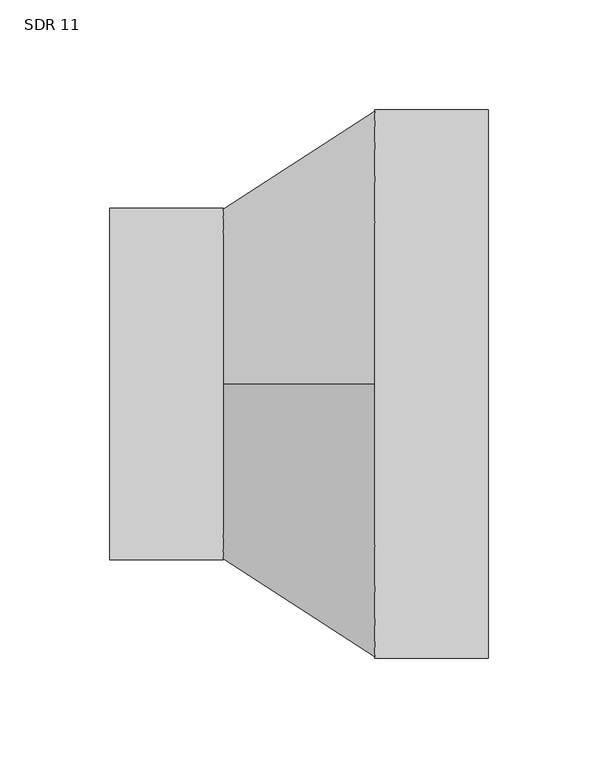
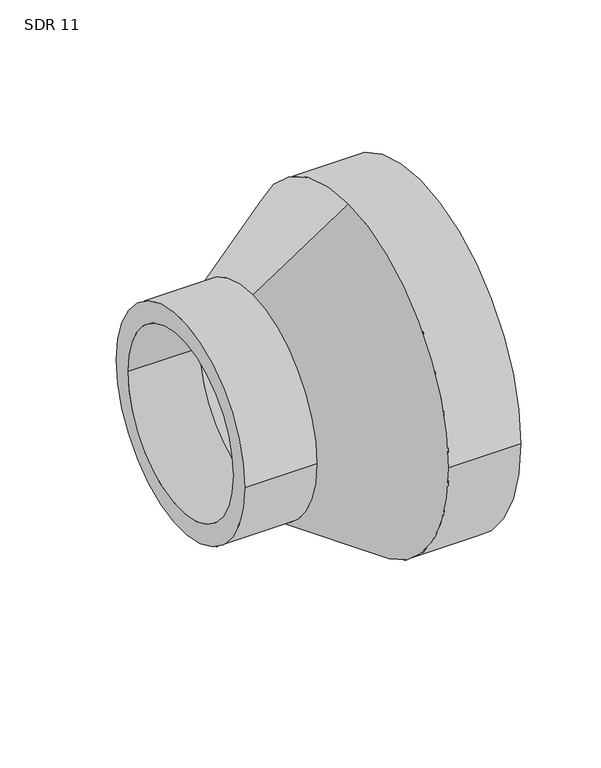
"""IFC4 building model written with IfcOpenShell, lengths in millimetres: pipe fitting geometry, Aquatherm - Reducing Coupling Combined - METRIC : SDR 11."""

import ifcopenshell
import ifcopenshell.guid

model = None  # the IFC model being written
_history = None  # IfcOwnerHistory: only IFC2X3 demands one
_inside = {}  # id of a spatial element -> (the spatial element, [elements in it])
_under = {}  # id of a project, library or spatial element -> (it, [spatial elements below it])
_declared = {}  # id of a project -> (the project, [libraries it declares])
_typed = {}  # id of a type object -> (the type object, [elements of that type])
_made_of = {}  # id of a material, layer set ... -> (it, [elements and type objects made of it])


def new_model(schema):
    """Start an empty IFC model of exactly this schema.

    Asked for "IFC4X3", IfcOpenShell would pick the latest addendum, in which some entities
    have other attributes; the version numbers below select the first issue.
    IFC2X3 requires an IfcOwnerHistory on every rooted entity: one is made here for all.
    """
    global model, _history
    if schema == "IFC4X3":
        model = ifcopenshell.file(schema_version=(4, 3, 0, 0))
    else:
        model = ifcopenshell.file(schema=schema)
    _inside.clear()
    _under.clear()
    _declared.clear()
    _typed.clear()
    _made_of.clear()
    _history = None
    if model.schema == "IFC2X3":
        org = make("IfcOrganization", Name="unknown")
        user = make(
            "IfcPersonAndOrganization",
            ThePerson=make("IfcPerson", FamilyName="unknown"),
            TheOrganization=org,
        )
        app = make(
            "IfcApplication",
            ApplicationDeveloper=org,
            Version="unknown",
            ApplicationFullName="unknown",
            ApplicationIdentifier="unknown",
        )
        _history = make(
            "IfcOwnerHistory",
            OwningUser=user,
            OwningApplication=app,
            ChangeAction="ADDED",
            CreationDate=0,
        )
    return model


def make(cls, **values):
    """One entity of the class cls with the attributes given. An attribute that is None is left unset."""
    return model.create_entity(
        cls, **{name: value for name, value in values.items() if value is not None}
    )


def rooted(cls, **values):
    """An entity with a GlobalId (a new one), such as an element, a storey or a relation."""
    return make(cls, GlobalId=ifcopenshell.guid.new(), OwnerHistory=_history, **values)


def si_unit(unit_type, name, prefix=None):
    """IfcSIUnit, for example si_unit("LENGTHUNIT", "METRE", prefix="MILLI")."""
    return make("IfcSIUnit", UnitType=unit_type, Prefix=prefix, Name=name)


def assignment(units):
    """IfcUnitAssignment: the units of a project."""
    return None if units is None else make("IfcUnitAssignment", Units=units)


def point(xyz):
    """IfcCartesianPoint."""
    return None if xyz is None else make("IfcCartesianPoint", Coordinates=xyz)


def direction(xyz):
    """IfcDirection."""
    return None if xyz is None else make("IfcDirection", DirectionRatios=xyz)


def frame(location, z_axis=None, x_axis=None):
    """IfcAxis2Placement3D, a coordinate frame: its origin and axes. An axis left out is left unset."""
    return make(
        "IfcAxis2Placement3D",
        Location=point(location),
        Axis=direction(z_axis),
        RefDirection=direction(x_axis),
    )


def origin():
    """The frame at (0, 0, 0) with its axes left unset."""
    return frame((0.0, 0.0, 0.0))


def place(relative_to, where):
    """IfcLocalPlacement: puts the frame where relative to a parent placement (None: the world)."""
    return make(
        "IfcLocalPlacement", PlacementRelTo=relative_to, RelativePlacement=where
    )


def context(
    kind, dimensions, precision=None, world=None, true_north=None, identifier=None
):
    """IfcGeometricRepresentationContext, for example the 3D "Model" context."""
    return make(
        "IfcGeometricRepresentationContext",
        ContextIdentifier=identifier,
        ContextType=kind,
        CoordinateSpaceDimension=dimensions,
        Precision=precision,
        WorldCoordinateSystem=world,
        TrueNorth=true_north,
    )


def project(units=None, contexts=None):
    """IfcProject with its units and contexts."""
    return rooted(
        "IfcProject",
        Name="project",
        RepresentationContexts=contexts,
        UnitsInContext=assignment(units),
    )


def spatial(cls, under=None, at=None, **own):
    """A site, building, storey or space (cls), placed at a placement, below another one or the project."""
    s = rooted(cls, ObjectPlacement=at, **own)
    if under is not None:
        _under.setdefault(under.id(), (under, []))[1].append(s)
    return s


def polyline(points):
    """IfcPolyline through the points."""
    return make("IfcPolyline", Points=[point(p) for p in points])


def circle_curve(where, radius):
    """IfcCircle in the frame where."""
    return make("IfcCircle", Position=where, Radius=radius)


def shape(context_of_items, identifier, shape_type, items):
    """IfcShapeRepresentation: the items that make up one representation, for example the "Body"."""
    return make(
        "IfcShapeRepresentation",
        ContextOfItems=context_of_items,
        RepresentationIdentifier=identifier,
        RepresentationType=shape_type,
        Items=items,
    )


def source(mapping_origin, context_of_items, identifier, shape_type, items):
    """IfcRepresentationMap: a shape defined once, which mapped items show again and again."""
    return make(
        "IfcRepresentationMap",
        MappingOrigin=mapping_origin,
        MappedRepresentation=shape(context_of_items, identifier, shape_type, items),
    )


def transform(
    local_origin,
    x_axis=None,
    y_axis=None,
    z_axis=None,
    scale=None,
    scale2=None,
    scale3=None,
    uniform=True,
):
    """IfcCartesianTransformationOperator3D, or its non-uniform kind. x_axis, y_axis, z_axis: its Axis1, 2, 3."""
    if uniform:
        return make(
            "IfcCartesianTransformationOperator3D",
            Axis1=direction(x_axis),
            Axis2=direction(y_axis),
            LocalOrigin=point(local_origin),
            Scale=scale,
            Axis3=direction(z_axis),
        )
    return make(
        "IfcCartesianTransformationOperator3DnonUniform",
        Axis1=direction(x_axis),
        Axis2=direction(y_axis),
        LocalOrigin=point(local_origin),
        Scale=scale,
        Axis3=direction(z_axis),
        Scale2=scale2,
        Scale3=scale3,
    )


def mapped(mapping_source, mapping_target):
    """IfcMappedItem: shows the shape of a source again, moved by a transform."""
    return make(
        "IfcMappedItem", MappingSource=mapping_source, MappingTarget=mapping_target
    )


def made_of(thing, what):
    """Note that an element or type object is made of a material, layer set ...; save() writes the relation."""
    if what is not None:
        _made_of.setdefault(what.id(), (what, []))[1].append(thing)
    return thing


def element(
    cls,
    number,
    at=None,
    inside=None,
    cuts=None,
    type_object=None,
    material=None,
    context=None,
    identifier="Body",
    shape_type=None,
    held_by="IfcProductDefinitionShape",
    body=None,
    shapes=None,
    **own,
):
    """One element of the class cls, such as IfcWall. Its Tag is "e" and its number.

    at: its placement. inside: the storey or other place that contains it. cuts: it is an
    opening in that element (IfcRelVoidsElement). A single representation is given by context,
    identifier, shape_type and body (its items); several are given by shapes. held_by: the class
    of the entity that holds the representations. save() writes the other relations.
    """
    e = rooted(cls, Tag="e%d" % number, ObjectPlacement=at, **own)
    if body is not None:
        shapes = [shape(context, identifier, shape_type, body)]
    if shapes is not None:
        e.Representation = make(held_by, Representations=shapes)
    if inside is not None:
        _inside.setdefault(inside.id(), (inside, []))[1].append(e)
    if cuts is not None:
        rooted(
            "IfcRelVoidsElement", RelatingBuildingElement=cuts, RelatedOpeningElement=e
        )
    if type_object is not None:
        _typed.setdefault(type_object.id(), (type_object, []))[1].append(e)
    return made_of(e, material)


def aggregate(whole, parts):
    """IfcRelAggregates: a whole, such as a stair, and the parts it consists of."""
    return rooted("IfcRelAggregates", RelatingObject=whole, RelatedObjects=parts)


def save(model, path):
    """Write the relations noted so far, then the file.

    IfcRelAggregates (storeys below a building ...), IfcRelContainedInSpatialStructure (elements
    in a storey), IfcRelDefinesByType, IfcRelAssociatesMaterial and IfcRelDeclares: one each for
    every whole, place, type object, material and project.
    """
    for whole, parts in _under.values():
        aggregate(whole, parts)
    for where, things in _inside.values():
        rooted(
            "IfcRelContainedInSpatialStructure",
            RelatedElements=things,
            RelatingStructure=where,
        )
    for kind, things in _typed.values():
        rooted("IfcRelDefinesByType", RelatedObjects=things, RelatingType=kind)
    for what, things in _made_of.values():
        rooted("IfcRelAssociatesMaterial", RelatedObjects=things, RelatingMaterial=what)
    for by, libraries in _declared.values():
        rooted("IfcRelDeclares", RelatingContext=by, RelatedDefinitions=libraries)
    model.write(path)


def plane_surface(at):
    """IfcPlane: the flat surface through the origin of the frame at, square to its z axis."""
    return make("IfcPlane", Position=at)


def cylinder_surface(at, radius):
    """IfcCylindricalSurface: all points at the distance radius from the z axis of the frame at."""
    return make("IfcCylindricalSurface", Position=at, Radius=radius)


def revolved_surface(curve, axis_point, axis_direction):
    """IfcSurfaceOfRevolution: the curve turned about the line through axis_point along axis_direction."""
    return make(
        "IfcSurfaceOfRevolution",
        SweptCurve=make("IfcArbitraryOpenProfileDef", ProfileType="CURVE", Curve=curve),
        AxisPosition=make("IfcAxis1Placement", Location=point(axis_point), Axis=direction(axis_direction)),
    )


def advanced_brep(points, edges, surfaces, faces):
    """IfcAdvancedBrep: a solid bounded by faces that lie on surfaces and meet in shared edges.

    An edge is (start, end): straight between two places in points (the first is 0);
    or (start, end, curve); or (start, end, curve, False) where it runs against its curve.
    A face is (place in surfaces, loops), or (place, loops, False) where it looks against
    its surface's normal. A loop lists edges by number (the first is 1), with a minus sign
    where the edge is run from its end to its start. The first loop is the outer one.
    """
    corners = [point(p) for p in points]
    vertices = [make("IfcVertexPoint", VertexGeometry=c) for c in corners]
    made = []
    for start, end, *more in edges:
        made.append(
            make(
                "IfcEdgeCurve",
                EdgeStart=vertices[start],
                EdgeEnd=vertices[end],
                EdgeGeometry=more[0] if more else make("IfcPolyline", Points=[corners[start], corners[end]]),
                SameSense=more[1] if len(more) > 1 else True,
            )
        )
    hull = []
    for where, loops, *sense in faces:
        bounds = []
        for j, loop in enumerate(loops):
            ring = [make("IfcOrientedEdge", EdgeElement=made[abs(k) - 1], Orientation=k > 0) for k in loop]
            bounds.append(
                make(
                    "IfcFaceOuterBound" if j == 0 else "IfcFaceBound",
                    Bound=make("IfcEdgeLoop", EdgeList=ring),
                    Orientation=True,
                )
            )
        hull.append(make("IfcAdvancedFace", Bounds=bounds, FaceSurface=surfaces[where], SameSense=sense[0] if sense else True))
    return make("IfcAdvancedBrep", Outer=make("IfcClosedShell", CfsFaces=hull))


def sdr_11_fa222bac(model_context):
    return source(origin(), model_context, "Body", "AdvancedBrep", [
        advanced_brep(
        [(-86.233, -80.01, 0.0), (-86.233, 80.01, 0.0), (-86.233, -65.4627273, 0.0), (-86.233, 65.4627273, 0.0), (-34.4932, 65.4627273, 0.0), (-34.4932, 0.0, 65.4627273), (-34.4932, -65.4627273, 0.0), (-34.4932, 0.0, -65.4627273), (-34.4932, 80.01, 0.0), (-34.4932, 0.0, -80.01), (-34.4932, -80.01, 0.0), (-34.4932, 0.0, 80.01), (86.233, -124.968, 0.0), (86.233, 124.968, 0.0), (86.233, -102.2465455, 0.0), (86.233, 102.2465455, 0.0), (34.4932, -124.968, 0.0), (34.4932, 0.0, -124.968), (34.4932, 124.968, 0.0), (34.4932, 0.0, 124.968), (34.4932, -102.2465455, 0.0), (34.4932, 0.0, 102.2465455), (34.4932, 102.2465455, 0.0), (34.4932, 0.0, -102.2465455)],
        [
            (0, 1, circle_curve(frame((-86.233, 0.0, 0.0), z_axis=(-1.0, 0.0, 0.0), x_axis=(0.0, 1.0, 0.0)), 80.01)),
            (1, 0, circle_curve(frame((-86.233, 0.0, 0.0), z_axis=(-1.0, 0.0, 0.0), x_axis=(0.0, 1.0, 0.0)), 80.01)),
            (2, 3, circle_curve(frame((-86.233, 0.0, 0.0), z_axis=(1.0, 0.0, 0.0), x_axis=(0.0, 1.0, 0.0)), 65.4627273)),
            (3, 2, circle_curve(frame((-86.233, 0.0, 0.0), z_axis=(1.0, 0.0, 0.0), x_axis=(0.0, 1.0, 0.0)), 65.4627273)),
            (3, 4),
            (4, 5, circle_curve(frame((-34.4932, 0.0, 0.0), z_axis=(1.0, 0.0, 0.0), x_axis=(0.0, 1.0, 0.0)), 65.4627273)),
            (5, 6, circle_curve(frame((-34.4932, 0.0, 0.0), z_axis=(1.0, 0.0, 0.0), x_axis=(0.0, 1.0, 0.0)), 65.4627273)),
            (6, 2),
            (6, 7, circle_curve(frame((-34.4932, 0.0, 0.0), z_axis=(1.0, 0.0, 0.0), x_axis=(0.0, 1.0, 0.0)), 65.4627273)),
            (7, 4, circle_curve(frame((-34.4932, 0.0, 0.0), z_axis=(1.0, 0.0, 0.0), x_axis=(0.0, 1.0, 0.0)), 65.4627273)),
            (1, 8),
            (8, 9, circle_curve(frame((-34.4932, 0.0, 0.0), z_axis=(-1.0, 0.0, 0.0), x_axis=(0.0, 1.0, 0.0)), 80.01)),
            (9, 10, circle_curve(frame((-34.4932, 0.0, 0.0), z_axis=(-1.0, 0.0, 0.0), x_axis=(0.0, 1.0, 0.0)), 80.01)),
            (10, 0),
            (10, 11, circle_curve(frame((-34.4932, 0.0, 0.0), z_axis=(-1.0, 0.0, 0.0), x_axis=(0.0, 1.0, 0.0)), 80.01)),
            (11, 8, circle_curve(frame((-34.4932, 0.0, 0.0), z_axis=(-1.0, 0.0, 0.0), x_axis=(0.0, 1.0, 0.0)), 80.01)),
            (12, 13, circle_curve(frame((86.233, 0.0, 0.0), z_axis=(1.0, 0.0, 0.0), x_axis=(0.0, 1.0, 0.0)), 124.968)),
            (13, 12, circle_curve(frame((86.233, 0.0, 0.0), z_axis=(1.0, 0.0, 0.0), x_axis=(0.0, 1.0, 0.0)), 124.968)),
            (14, 15, circle_curve(frame((86.233, 0.0, 0.0), z_axis=(-1.0, 0.0, 0.0), x_axis=(0.0, 1.0, 0.0)), 102.2465455)),
            (15, 14, circle_curve(frame((86.233, 0.0, 0.0), z_axis=(-1.0, 0.0, 0.0), x_axis=(0.0, 1.0, 0.0)), 102.2465455)),
            (12, 16),
            (16, 17, circle_curve(frame((34.4932, 0.0, 0.0), z_axis=(1.0, 0.0, 0.0), x_axis=(0.0, 1.0, 0.0)), 124.968)),
            (17, 18, circle_curve(frame((34.4932, 0.0, 0.0), z_axis=(1.0, 0.0, 0.0), x_axis=(0.0, 1.0, 0.0)), 124.968)),
            (18, 13),
            (18, 19, circle_curve(frame((34.4932, 0.0, 0.0), z_axis=(1.0, 0.0, 0.0), x_axis=(0.0, 1.0, 0.0)), 124.968)),
            (19, 16, circle_curve(frame((34.4932, 0.0, 0.0), z_axis=(1.0, 0.0, 0.0), x_axis=(0.0, 1.0, 0.0)), 124.968)),
            (14, 20),
            (20, 21, circle_curve(frame((34.4932, 0.0, 0.0), z_axis=(-1.0, 0.0, 0.0), x_axis=(0.0, 1.0, 0.0)), 102.2465455)),
            (21, 22, circle_curve(frame((34.4932, 0.0, 0.0), z_axis=(-1.0, 0.0, 0.0), x_axis=(0.0, 1.0, 0.0)), 102.2465455)),
            (22, 15),
            (22, 23, circle_curve(frame((34.4932, 0.0, 0.0), z_axis=(-1.0, 0.0, 0.0), x_axis=(0.0, 1.0, 0.0)), 102.2465455)),
            (23, 20, circle_curve(frame((34.4932, 0.0, 0.0), z_axis=(-1.0, 0.0, 0.0), x_axis=(0.0, 1.0, 0.0)), 102.2465455)),
            (11, 19),
            (17, 9),
            (21, 5),
            (7, 23),
        ],
        [
            plane_surface(frame((-86.233, 65.4627273, 0.0), z_axis=(-1.0, 0.0, 0.0), x_axis=(0.0, 0.0, 1.0))),
            revolved_surface(polyline([(-86.233, 65.4627273, 0.0), (-34.4932, 65.4627273, 0.0)]), (-86.233, 0.0, 0.0), (-1.0, 0.0, 0.0)),
            cylinder_surface(frame((0.0, 0.0, 0.0), z_axis=(1.0, 0.0, 0.0), x_axis=(0.0, 1.0, 0.0)), 80.01),
            plane_surface(frame((86.233, 124.968, 0.0), z_axis=(1.0, 0.0, 0.0), x_axis=(0.0, 0.0, 1.0))),
            cylinder_surface(frame((34.4932, 0.0, 0.0), z_axis=(1.0, 0.0, 0.0), x_axis=(0.0, 1.0, 0.0)), 124.968),
            revolved_surface(polyline([(34.4932, 102.2465455, 0.0), (86.233, 102.2465455, 0.0)]), (0.0, 0.0, 0.0), (-1.0, 0.0, 0.0)),
            revolved_surface(polyline([(34.4932, 0.0, 124.968), (-34.4932, 0.0, 80.01)]), (-661.4925384, 0.0, 0.0), (-1.0, 0.0, 0.0)),
            revolved_surface(polyline([(-34.4932, 0.0, 65.4627273), (34.4932, 0.0, 102.2465455)]), (-661.4925384, 0.0, 0.0), (-1.0, 0.0, 0.0)),
        ],
        [
            (0, [[1, 2], [3, 4]]),
            (1, [[-4, 5, 6, 7, 8]]),
            (1, [[-3, -8, 9, 10, -5]]),
            (2, [[-2, 11, 12, 13, 14]]),
            (2, [[-1, -14, 15, 16, -11]]),
            (3, [[17, 18], [19, 20]]),
            (4, [[-17, 21, 22, 23, 24]]),
            (4, [[-18, -24, 25, 26, -21]]),
            (5, [[-19, 27, 28, 29, 30]]),
            (5, [[-20, -30, 31, 32, -27]]),
            (6, [[33, -25, -23, 34, -12, -16]]),
            (6, [[-33, -15, -13, -34, -22, -26]]),
            (7, [[35, -6, -10, 36, -31, -29]]),
            (7, [[-35, -28, -32, -36, -9, -7]]),
        ],
    ),
    ])


if __name__ == "__main__":
    model = new_model("IFC4")
    model_context = context("Model", 3, world=origin())
    ifc_project = project(units=[si_unit("LENGTHUNIT", "METRE", prefix="MILLI")], contexts=[model_context])
    site = spatial("IfcSite", under=ifc_project)
    building = spatial("IfcBuilding", under=site)
    placement = place(None, origin())
    sdr_11_shape = sdr_11_fa222bac(model_context)
    element("IfcPipeFitting", 1, ObjectType="Aquatherm - Reducing Coupling Combined - METRIC : SDR 11", at=placement, inside=building, context=model_context, shape_type="MappedRepresentation", body=[
        mapped(sdr_11_shape, transform((0.0, 0.0, 0.0), x_axis=(1.0, 0.0, 0.0), y_axis=(0.0, 1.0, 0.0), z_axis=(0.0, 0.0, 1.0))),
    ])
    save(model, "model.ifc")
